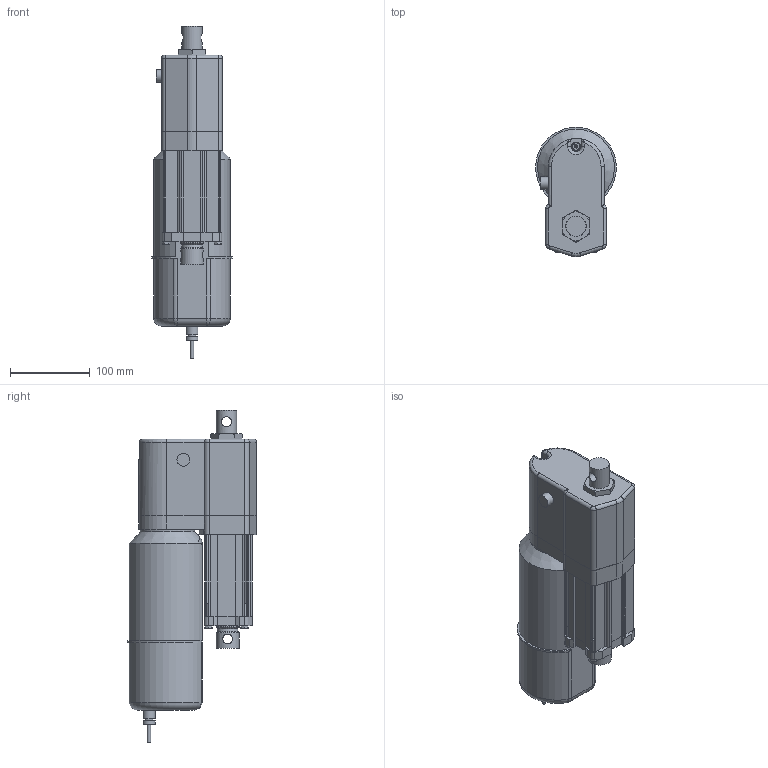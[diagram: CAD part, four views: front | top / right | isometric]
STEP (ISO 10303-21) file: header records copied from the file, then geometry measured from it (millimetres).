
FILE_DESCRIPTION (( 'STEP AP214' ), '1' );
FILE_NAME ('AA22-05A65M-05M0NPO-tollo.step', '2020-04-13T18:57:29', ( '' ), ( '' ), 'SwSTEP 2.0', 'SolidWorks 2010', '' );
FILE_SCHEMA (( 'AUTOMOTIVE_DESIGN' ));
Length unit declared in the file: millimetre
Products named in the file (8): Electrak-LA24-Motor-AA22-05A65M-05M0NPO-tollo_Electrak-LA24-Motor-AA22-05A65M-05M0NPO-tollo; Electrak-LA24-Rear-AA22-05A65M-05M0NPO-tollo_Electrak-LA24-Rear-AA22-05A65M-05M0NPO-tollo; Electrak-LA24-Tube-AA22-05A65M-05M0NPO-tollo_Electrak-LA24-Tube-AA22-05A65M-05M0NPO-tollo; Electrak-LA24-Rod-AA22-05A65M-05M0NPO-tollo_Electrak-LA24-Rod-AA22-05A65M-05M0NPO-tollo; Electrak-LA24-Plate-AA22-05A65M-05M0NPO-tollo_Electrak-LA24-Plate-AA22-05A65M-05M0NPO-tollo; Screw-MFX-H-M5_Screw-MFX-H-M5x24H; Screw-M6S-M5-AA22-05A65M-05M0NPO-tollo_Screw-M6S-M5-AA22-05A65M-05M0NPO-tollo; AA22-05A65M-05M0NPO-tollo
Assembly tree (10 placements, depth 2):
  AA22-05A65M-05M0NPO-tollo
    Screw-M6S-M5-AA22-05A65M-05M0NPO-tollo_Screw-M6S-M5-AA22-05A65M-05M0NPO-tollo  x4
    Screw-MFX-H-M5_Screw-MFX-H-M5x24H
    Electrak-LA24-Rod-AA22-05A65M-05M0NPO-tollo_Electrak-LA24-Rod-AA22-05A65M-05M0NPO-tollo
    Electrak-LA24-Tube-AA22-05A65M-05M0NPO-tollo_Electrak-LA24-Tube-AA22-05A65M-05M0NPO-tollo
    Electrak-LA24-Rear-AA22-05A65M-05M0NPO-tollo_Electrak-LA24-Rear-AA22-05A65M-05M0NPO-tollo
    Electrak-LA24-Motor-AA22-05A65M-05M0NPO-tollo_Electrak-LA24-Motor-AA22-05A65M-05M0NPO-tollo
    Electrak-LA24-Plate-AA22-05A65M-05M0NPO-tollo_Electrak-LA24-Plate-AA22-05A65M-05M0NPO-tollo
Bounding box: 100.99 x 162.5 x 415.3 mm (x, y, z)
Volume: 2920451.4 mm3; surface area: 253066.3 mm2
Topology: 10 solids, 10 shells, 355 faces, 890 edges, 575 vertices
Faces by surface type: plane 175, cylinder 129, cone 31, torus 15, bspline 3, sphere 2
Full cylindrical faces by diameter (mm): 4 x1, 4.126 x5, 4.8 x6, 5 x5, 5.6 x4, 7.878 x4, 9.3 x1, 10 x1, 12.2 x2, 15 x2, 16 x1, 25.4 x1, 28.6 x4, 47.625 x1, 68 x1
Entity records: 9673 total; most frequent: CARTESIAN_POINT 2403, DIRECTION 1454, ORIENTED_EDGE 1342, EDGE_CURVE 671, AXIS2_PLACEMENT_3D 531, VERTEX_POINT 462, LINE 392, VECTOR 392
